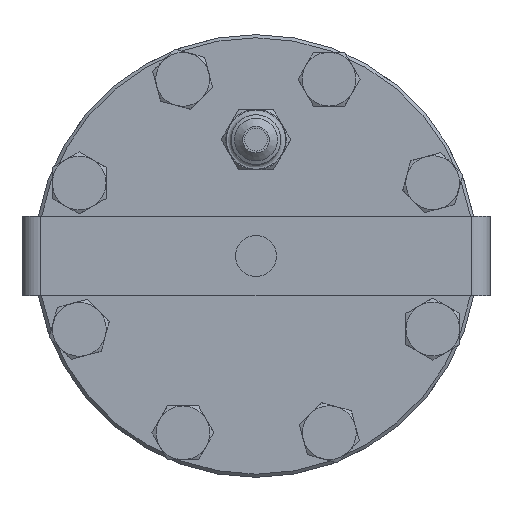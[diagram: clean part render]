
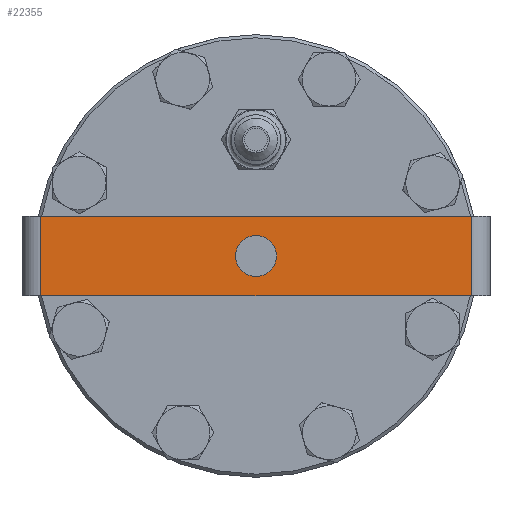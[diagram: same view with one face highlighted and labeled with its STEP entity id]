
A CAD part, front view. The second image highlights one B-rep face of the part: STEP entity #22355.
In plain terms, the highlighted planar face has unit normal (0, -1, 0).
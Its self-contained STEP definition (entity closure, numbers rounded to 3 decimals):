
#1533=FACE_BOUND('',#7523,.T.);
#2908=LINE('',#50609,#4349);
#2911=LINE('',#50623,#4352);
#2922=LINE('',#50651,#4363);
#2928=LINE('',#50678,#4369);
#4349=VECTOR('',#28429,136.);
#4352=VECTOR('',#28442,136.);
#4363=VECTOR('',#28473,25.);
#4369=VECTOR('',#28493,25.);
#6110=FACE_OUTER_BOUND('',#7522,.T.);
#7522=EDGE_LOOP('',(#19442,#19443,#19444,#19445));
#7523=EDGE_LOOP('',(#19446));
#8268=CIRCLE('',#23956,6.5);
#10304=VERTEX_POINT('',#50551);
#10323=VERTEX_POINT('',#50606);
#10324=VERTEX_POINT('',#50608);
#10329=VERTEX_POINT('',#50620);
#10330=VERTEX_POINT('',#50622);
#13406=EDGE_CURVE('',#10304,#10304,#8268,.T.);
#13435=EDGE_CURVE('',#10324,#10323,#2908,.T.);
#13442=EDGE_CURVE('',#10330,#10329,#2911,.T.);
#13458=EDGE_CURVE('',#10323,#10330,#2922,.T.);
#13465=EDGE_CURVE('',#10329,#10324,#2928,.T.);
#19442=ORIENTED_EDGE('',*,*,#13458,.T.);
#19443=ORIENTED_EDGE('',*,*,#13442,.T.);
#19444=ORIENTED_EDGE('',*,*,#13465,.T.);
#19445=ORIENTED_EDGE('',*,*,#13435,.T.);
#19446=ORIENTED_EDGE('',*,*,#13406,.T.);
#21224=PLANE('',#23993);
#22355=ADVANCED_FACE('',(#6110,#1533),#21224,.F.);
#23956=AXIS2_PLACEMENT_3D('',#50552,#28377,#28378);
#23993=AXIS2_PLACEMENT_3D('',#50679,#28494,#28495);
#28377=DIRECTION('center_axis',(0.,1.,0.));
#28378=DIRECTION('ref_axis',(1.,0.,0.));
#28429=DIRECTION('',(1.,0.,0.));
#28442=DIRECTION('',(-1.,0.,0.));
#28473=DIRECTION('',(0.,0.,1.));
#28493=DIRECTION('',(0.,0.,-1.));
#28494=DIRECTION('center_axis',(0.,1.,0.));
#28495=DIRECTION('ref_axis',(1.,0.,0.));
#50551=CARTESIAN_POINT('',(6.5,-340.015,0.));
#50552=CARTESIAN_POINT('Origin',(0.,-340.015,
0.));
#50606=CARTESIAN_POINT('',(68.,-340.015,-12.5));
#50608=CARTESIAN_POINT('',(-68.,-340.015,-12.5));
#50609=CARTESIAN_POINT('',(-74.,-340.015,-12.5));
#50620=CARTESIAN_POINT('',(-68.,-340.015,12.5));
#50622=CARTESIAN_POINT('',(68.,-340.015,12.5));
#50623=CARTESIAN_POINT('',(74.,-340.015,12.5));
#50651=CARTESIAN_POINT('',(68.,-340.015,-6.25));
#50678=CARTESIAN_POINT('',(-68.,-340.015,6.25));
#50679=CARTESIAN_POINT('Origin',(0.,-340.015,
0.));
